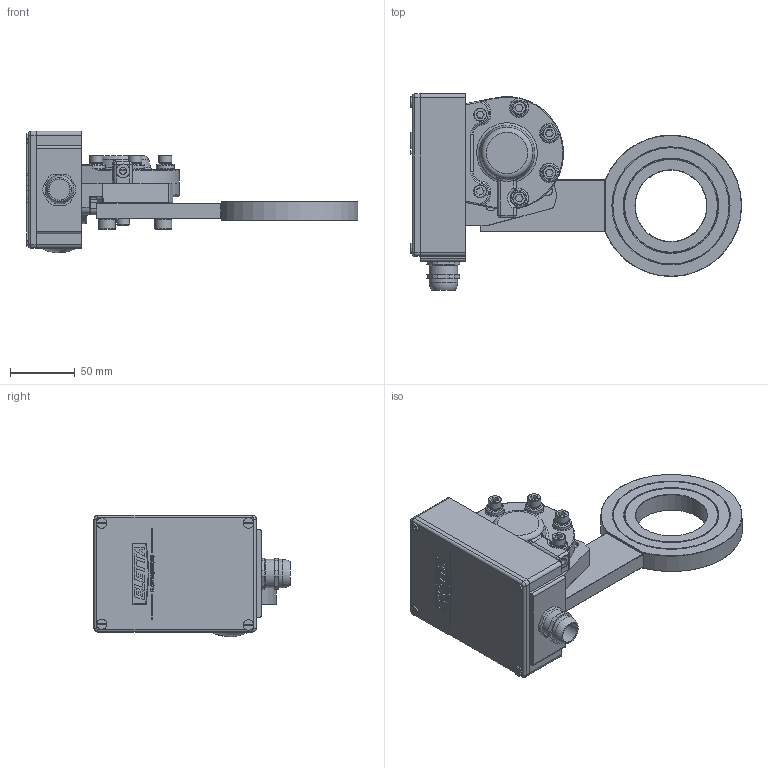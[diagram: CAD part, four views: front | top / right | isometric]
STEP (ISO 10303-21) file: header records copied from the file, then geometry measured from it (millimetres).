
FILE_DESCRIPTION(/* description */ ('Alibre Inc.'),/* implementation_level */ '2;1');
FILE_NAME(/* name */ 'export0',/* time_stamp */ '2012-10-19T13:16:23+02:00',/* author */ (''),/* organization */ (''),/* preprocessor_version */ 'ST-DEVELOPER v14',/* originating_system */ 'Alibre',/* authorisation */ '');
FILE_SCHEMA (('CONFIG_CONTROL_DESIGN'));
Length unit declared in the file: centimetre
Products named in the file (12): ID_1; ID_2; ID_3; ID_4; ID_5; ID_6; ID_7; ID_8
Bounding box: 255.28 x 151 x 93.66 mm (x, y, z)
Volume: 414858.4 mm3; surface area: 174215 mm2
Topology: 21 solids, 21 shells, 1085 faces, 2568 edges, 1593 vertices
Faces by surface type: plane 538, cylinder 231, bspline 162, cone 76, torus 70, sphere 8
Full cylindrical faces by diameter (mm): 3.9 x2, 5 x22, 5.5 x1, 5.541 x2, 6 x14, 6.038 x2, 6.5 x6, 8 x9, 8.5 x2, 9.6 x6, 10 x11, 10.5 x1, 12 x3, 13 x2, 14 x3, 16 x1, 17.966 x1, 19.5 x1, 22 x2, 22.5 x4, 29 x1, 31 x1, 55 x1, 72 x2, 73 x2, 90 x2, 91 x2
Entity records: 34338 total; most frequent: CARTESIAN_POINT 14030, ORIENTED_EDGE 3988, DIRECTION 3168, EDGE_CURVE 1994, VERTEX_POINT 1333, AXIS2_PLACEMENT_3D 1279, EDGE_LOOP 1159, FACE_BOUND 1159
